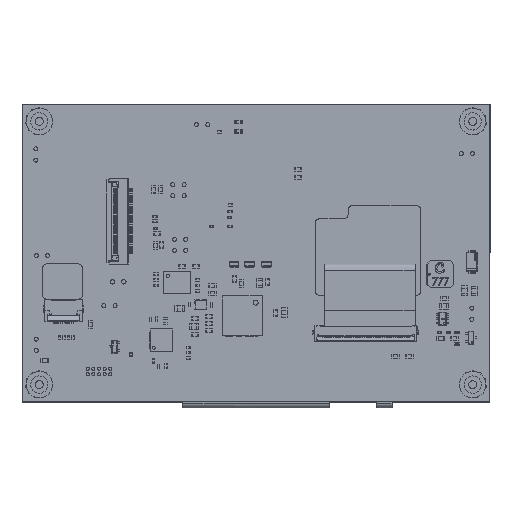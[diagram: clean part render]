
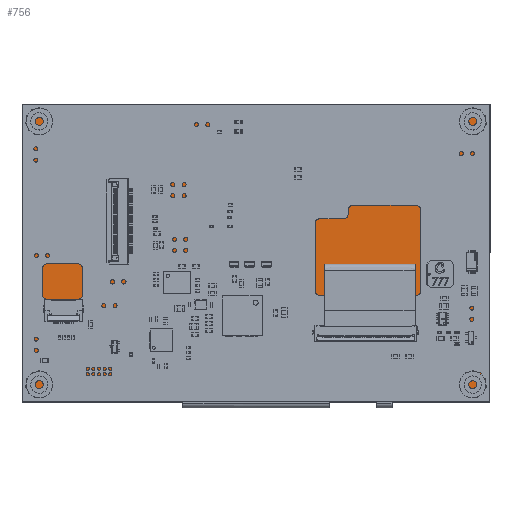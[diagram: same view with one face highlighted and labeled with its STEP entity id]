
A CAD part, top view. The second image highlights one B-rep face of the part: STEP entity #756.
In plain terms, the highlighted planar face has unit normal (0, 0, 1).
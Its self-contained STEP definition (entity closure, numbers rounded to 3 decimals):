
#756 = ADVANCED_FACE ( 'NONE', ( #105263 ), #31405, .F. ) ;
#2548 = LINE ( 'NONE', #138913, #11742 ) ;
#4758 = DIRECTION ( 'NONE',  ( -1., 0., 0. ) ) ;
#11742 = VECTOR ( 'NONE', #19923, 1000. ) ;
#19923 = DIRECTION ( 'NONE',  ( 0., -1., 0. ) ) ;
#22123 = DIRECTION ( 'NONE',  ( 0., 0., -1. ) ) ;
#31405 = PLANE ( 'NONE',  #117453 ) ;
#32768 = CARTESIAN_POINT ( 'NONE',  ( 0.65, 47.45, 9.622 ) ) ;
#33730 = LINE ( 'NONE', #119232, #187235 ) ;
#34141 = CARTESIAN_POINT ( 'NONE',  ( 0.65, -19.7, 9.622 ) ) ;
#37089 = CARTESIAN_POINT ( 'NONE',  ( 0.65, 47.45, 9.622 ) ) ;
#50172 = EDGE_CURVE ( 'NONE', #71795, #189273, #33730, .T. ) ;
#54839 = DIRECTION ( 'NONE',  ( -1., 0., 0. ) ) ;
#68151 = LINE ( 'NONE', #119093, #169545 ) ;
#71795 = VERTEX_POINT ( 'NONE', #32768 ) ;
#76917 = ORIENTED_EDGE ( 'NONE', *, *, #199700, .F. ) ;
#83952 = CARTESIAN_POINT ( 'NONE',  ( 0.65, -19.7, 9.622 ) ) ;
#100722 = DIRECTION ( 'NONE',  ( 0., -1., 0. ) ) ;
#105089 = VERTEX_POINT ( 'NONE', #183000 ) ;
#105263 = FACE_OUTER_BOUND ( 'NONE', #186849, .T. ) ;
#114720 = ORIENTED_EDGE ( 'NONE', *, *, #205536, .T. ) ;
#117453 = AXIS2_PLACEMENT_3D ( 'NONE', #37089, #22123, #4758 ) ;
#119093 = CARTESIAN_POINT ( 'NONE',  ( 0.65, 47.45, 9.622 ) ) ;
#119232 = CARTESIAN_POINT ( 'NONE',  ( 0.65, 47.45, 9.622 ) ) ;
#138746 = DIRECTION ( 'NONE',  ( -1., 0., 0. ) ) ;
#138913 = CARTESIAN_POINT ( 'NONE',  ( -104.85, 47.45, 9.622 ) ) ;
#166968 = CARTESIAN_POINT ( 'NONE',  ( -104.85, -19.7, 9.622 ) ) ;
#169545 = VECTOR ( 'NONE', #138746, 1000. ) ;
#175334 = ORIENTED_EDGE ( 'NONE', *, *, #50172, .F. ) ;
#180101 = EDGE_CURVE ( 'NONE', #105089, #187154, #2548, .T. ) ;
#183000 = CARTESIAN_POINT ( 'NONE',  ( -104.85, 47.45, 9.622 ) ) ;
#184009 = VECTOR ( 'NONE', #54839, 1000. ) ;
#186849 = EDGE_LOOP ( 'NONE', ( #188176, #76917, #175334, #114720 ) ) ;
#187154 = VERTEX_POINT ( 'NONE', #166968 ) ;
#187235 = VECTOR ( 'NONE', #100722, 1000. ) ;
#188176 = ORIENTED_EDGE ( 'NONE', *, *, #180101, .T. ) ;
#189273 = VERTEX_POINT ( 'NONE', #83952 ) ;
#199700 = EDGE_CURVE ( 'NONE', #189273, #187154, #209846, .T. ) ;
#205536 = EDGE_CURVE ( 'NONE', #71795, #105089, #68151, .T. ) ;
#209846 = LINE ( 'NONE', #34141, #184009 ) ;
